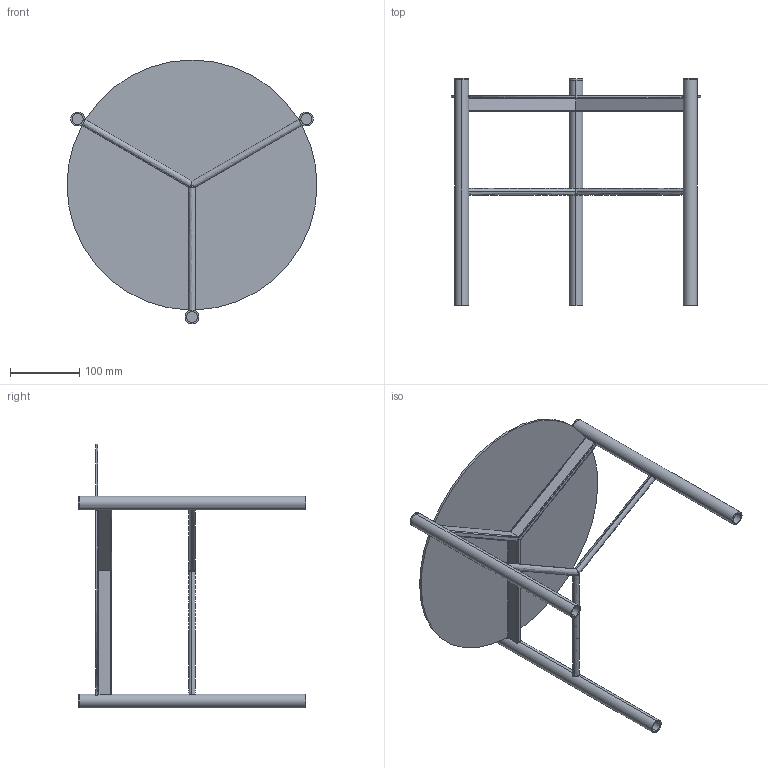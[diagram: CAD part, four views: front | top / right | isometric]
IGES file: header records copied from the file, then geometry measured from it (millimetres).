
Start section: SolidWorks IGES file using analytic representation for surfaces
Global section: file name: Y:\eforma\TECNICO\SOLIDWORKS\E-FORMA\2-TAVOLINI\JACK\02 parts\J401S.IGS; native system: SolidWorks 2022; preprocessor: SolidWorks 2022; author: eforma.tech; date: 240806.132452; units: millimetre
Bounding box: 359.95 x 327 x 380.07 mm (x, y, z)
Volume: 459940.7 mm3; surface area: 405519.1 mm2
Topology: 13 solids, 13 shells, 121 faces, 287 edges, 190 vertices
Faces by surface type: revolution 71, plane 50
